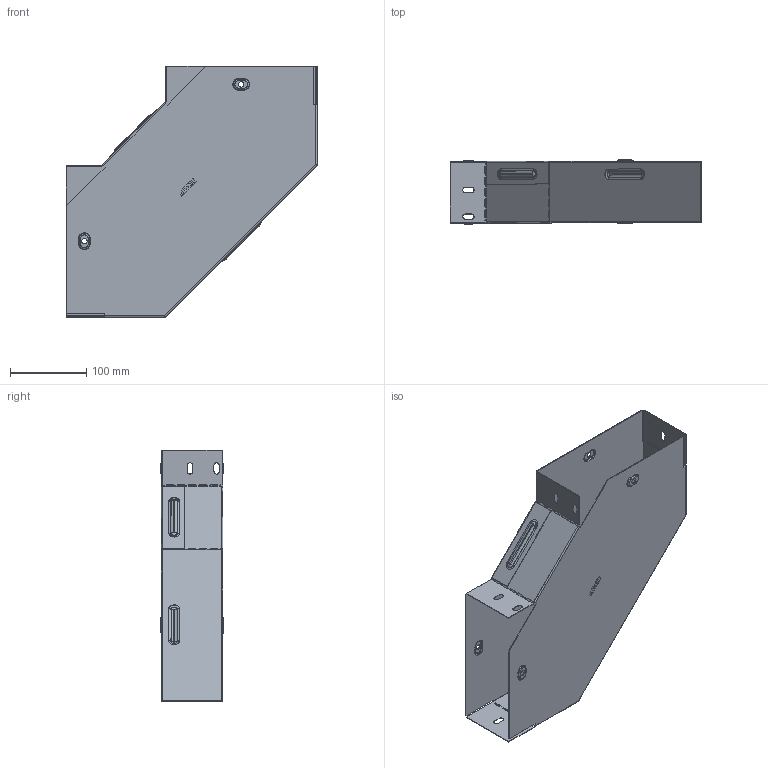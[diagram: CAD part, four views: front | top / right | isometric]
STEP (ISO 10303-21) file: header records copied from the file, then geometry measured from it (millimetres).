
FILE_DESCRIPTION (( 'STEP AP214' ), '1' );
FILE_NAME ('g9080200_捘.STEP', '2019-06-10T09:52:59', ( '砐錪賧瘔蠈錪 Windows' ), ( '' ), 'SwSTEP 2.0', 'SolidWorks 2018', '' );
FILE_SCHEMA (( 'AUTOMOTIVE_DESIGN' ));
Length unit declared in the file: millimetre
Products named in the file (1): g9080200_捘
Bounding box: 330.8 x 83.8 x 330.8 mm (x, y, z)
Volume: 176708.7 mm3; surface area: 445328.7 mm2
Topology: 2 solids, 2 shells, 564 faces, 1560 edges, 1008 vertices
Faces by surface type: plane 328, cylinder 146, torus 64, bspline 26
Entity records: 19289 total; most frequent: CARTESIAN_POINT 4609, ORIENTED_EDGE 3120, DIRECTION 2946, EDGE_CURVE 1560, VECTOR 1124, LINE 1124, VERTEX_POINT 1008, AXIS2_PLACEMENT_3D 911
